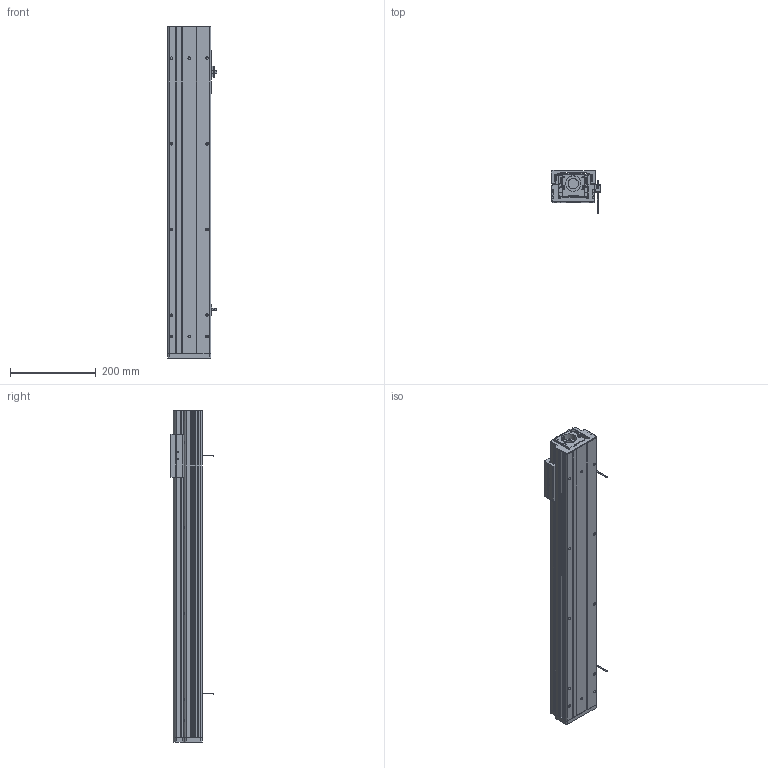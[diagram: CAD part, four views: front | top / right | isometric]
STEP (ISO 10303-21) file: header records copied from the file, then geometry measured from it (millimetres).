
FILE_DESCRIPTION (( 'STEP AP203' ), '1' );
FILE_NAME ('CTHM10-S550-O-BC.STEP', '2019-12-18T00:58:25', ( '微软用户' ), ( '微软中国' ), 'SwSTEP 2.0', 'SolidWorks 2017', '' );
FILE_SCHEMA (( 'CONFIG_CONTROL_DESIGN' ));
Length unit declared in the file: millimetre
Products named in the file (11): 遣喳蝶15x12x8; CTHM10菁釱(200); EE-SX672-BR; CTHM10痄雄釱(党蜊); CTHM10-S550-O-BC; CTHM10盓傅耜; CTHM10固定侧自制轴承座; CTHM10裔啣(100); CTHM10傷裔(祥結裔啣); CTHM10綴傷裔; 覜茼え
Assembly tree (14 placements, depth 2):
  CTHM10-S550-O-BC
    CTHM10菁釱(200)
    CTHM10痄雄釱(党蜊)
    CTHM10盓傅耜
    CTHM10固定侧自制轴承座
    CTHM10裔啣(100)
    CTHM10傷裔(祥結裔啣)
    CTHM10綴傷裔
    覜茼え
    遣喳蝶15x12x8  x4
    EE-SX672-BR  x2
Bounding box: 114.7 x 100.2 x 775 mm (x, y, z)
Volume: 2077622.1 mm3; surface area: 700065.7 mm2
Topology: 14 solids, 14 shells, 950 faces, 2692 edges, 1756 vertices
Faces by surface type: cylinder 509, plane 397, cone 44
Entity records: 32179 total; most frequent: CARTESIAN_POINT 7763, DIRECTION 4898, ORIENTED_EDGE 4856, EDGE_CURVE 2428, AXIS2_PLACEMENT_3D 1793, VERTEX_POINT 1604, VECTOR 1312, LINE 1312
